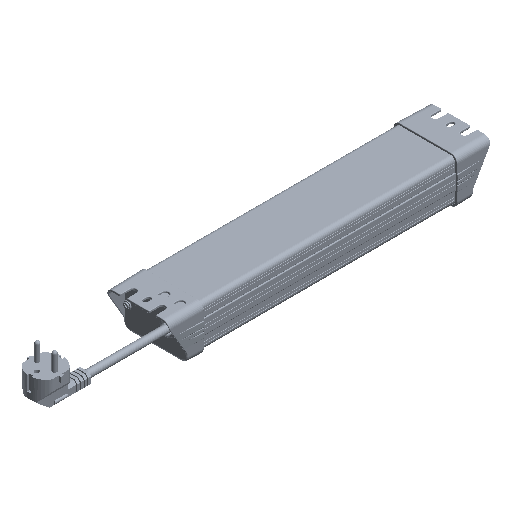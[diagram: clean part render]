
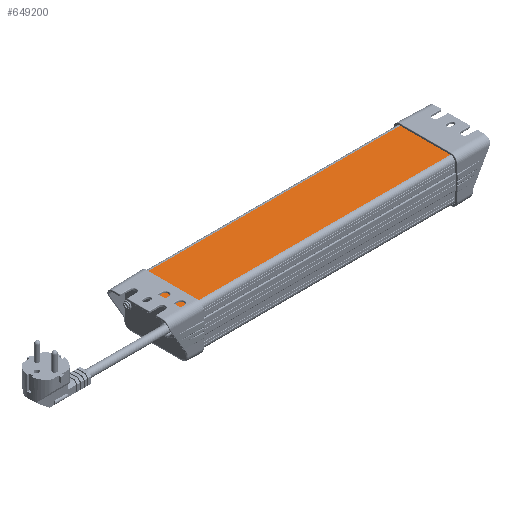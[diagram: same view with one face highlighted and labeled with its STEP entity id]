
A CAD part, isometric view. The second image highlights one B-rep face of the part: STEP entity #649200.
In plain terms, the highlighted planar face has unit normal (0, 0, 1) as drawn and (-1, 0, 0) by its records, which use the part's own axes.
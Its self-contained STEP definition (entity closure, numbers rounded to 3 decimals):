
#189980=CARTESIAN_POINT('',(-828.218,-1631.619,
136.479));
#189990=VERTEX_POINT('',#189980);
#190020=CARTESIAN_POINT('',(-828.218,-1631.619,
168.843));
#190030=DIRECTION('',(0.,0.,1.));
#190040=VECTOR('',#190030,1.);
#190050=LINE('',#190020,#190040);
#190060=CARTESIAN_POINT('',(-828.218,-1631.619,
191.679));
#190070=VERTEX_POINT('',#190060);
#190080=EDGE_CURVE('',#189990,#190070,#190050,.T.);
#648830=CARTESIAN_POINT('',(-828.218,-1321.019,
136.479));
#648840=VERTEX_POINT('',#648830);
#648870=CARTESIAN_POINT('',(-828.218,-1631.819,
136.479));
#648880=DIRECTION('',(0.,1.,0.));
#648890=VECTOR('',#648880,1.);
#648900=LINE('',#648870,#648890);
#648910=EDGE_CURVE('',#189990,#648840,#648900,.T.);
#648970=CARTESIAN_POINT('',(-828.218,-1631.819,
164.079));
#648980=DIRECTION('',(-1.,0.,0.));
#648990=DIRECTION('',(0.,0.,1.));
#649000=AXIS2_PLACEMENT_3D('',#648970,#648980,#648990);
#649010=PLANE('',#649000);
#649020=ORIENTED_EDGE('',*,*,#648910,.F.);
#649030=CARTESIAN_POINT('',(-828.218,-1321.019,
168.843));
#649040=DIRECTION('',(0.,0.,-1.));
#649050=VECTOR('',#649040,1.);
#649060=LINE('',#649030,#649050);
#649070=CARTESIAN_POINT('',(-828.218,-1321.019,
191.679));
#649080=VERTEX_POINT('',#649070);
#649090=EDGE_CURVE('',#649080,#648840,#649060,.T.);
#649100=ORIENTED_EDGE('',*,*,#649090,.T.);
#649110=CARTESIAN_POINT('',(-828.218,-1631.819,
191.679));
#649120=DIRECTION('',(0.,1.,0.));
#649130=VECTOR('',#649120,1.);
#649140=LINE('',#649110,#649130);
#649150=EDGE_CURVE('',#190070,#649080,#649140,.T.);
#649160=ORIENTED_EDGE('',*,*,#649150,.T.);
#649170=ORIENTED_EDGE('',*,*,#190080,.T.);
#649180=EDGE_LOOP('',(#649170,#649160,#649100,#649020));
#649190=FACE_OUTER_BOUND('',#649180,.T.);
#649200=ADVANCED_FACE('',(#649190),#649010,.T.);
